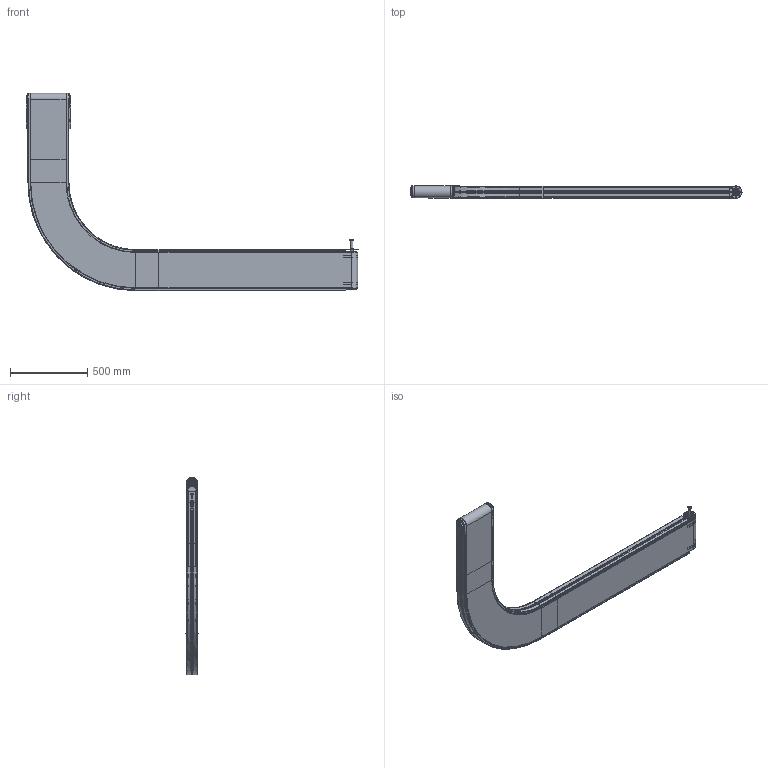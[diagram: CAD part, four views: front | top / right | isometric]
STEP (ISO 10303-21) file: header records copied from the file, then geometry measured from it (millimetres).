
FILE_DESCRIPTION (( 'STEP AP203' ), '1' );
FILE_NAME ('NASTRO_3020.step', '2026-04-27T08:38:50', ( 'Utente Windows' ), ( '' ), 'SwSTEP 2.0', 'SolidWorks 2024', '' );
FILE_SCHEMA (( 'CONFIG_CONTROL_DESIGN' ));
Length unit declared in the file: millimetre
Products named in the file (30): 084.802.076_chiuso; 3020.000.007; TELAIO_3020_9_1_Default<A macchina>; CHIAVETTE_A 5x5x50 UNI 6604-69; CURVA_3020_9_SX_Default<A macchina>; CHIAVETTE_A 5x5x30 UNI 6604-69; NASTRO_3020; 084.301.000 VITI ALUSIC_084.301.003; CATENA_3020_LDX; 3020.009.200; 084.807.014_084.807.002; 084.802.077_chiuso; VITI TE UNI 5739_M6x16 UNI 5739; 3020.009.002; 3020.006.130_DX; VITI TE UNI 5739_M8x16 UNI 5739; 084.802.017_084.802.017; TELAIO_3020_9_7_Default<A macchina>; 084.307.006; 084.302.000 DADI ALUSIC 13x13_084.302.004; 084.807.003_084.807.003<A macchina>; VITI TSEI UNI 5933 INOX_0410UNI5933A2; 084.808.012; 3020.000.005; RONDELLE UNI 6592_8.4x17 UNI 6592; 3020.006.003; 084.802.008; 084.802.062; RONDELLE FASCIA LARGA UNI 6593_6.4x24 UNI 6593; 084.802.078_chiuso con cono
Assembly tree (61 placements, depth 3):
  NASTRO_3020
    CATENA_3020_LDX
    3020.006.130_DX
      084.807.003_084.807.003<A macchina>  x2
      084.802.017_084.802.017  x2
      084.301.000 VITI ALUSIC_084.301.003  x4
      084.302.000 DADI ALUSIC 13x13_084.302.004  x4
      3020.006.003
      VITI TE UNI 5739_M8x16 UNI 5739
      084.802.062
      VITI TSEI UNI 5933 INOX_0410UNI5933A2  x4
      CHIAVETTE_A 5x5x50 UNI 6604-69
      CHIAVETTE_A 5x5x30 UNI 6604-69  x2
      3020.000.005  x2
      RONDELLE FASCIA LARGA UNI 6593_6.4x24 UNI 6593
      VITI TE UNI 5739_M6x16 UNI 5739
      084.802.077_chiuso
      084.802.078_chiuso con cono
      084.808.012
      RONDELLE UNI 6592_8.4x17 UNI 6592
    CURVA_3020_9_SX_Default<A macchina>
    3020.009.200
      084.802.008  x2
      084.301.000 VITI ALUSIC_084.301.003  x6
      084.302.000 DADI ALUSIC 13x13_084.302.004  x6
      3020.000.007
      3020.009.002
      084.807.014_084.807.002  x2
      084.802.076_chiuso  x2
      VITI TSEI UNI 5933 INOX_0410UNI5933A2  x4
    084.307.006
    TELAIO_3020_9_1_Default<A macchina>
    TELAIO_3020_9_7_Default<A macchina>
Bounding box: 2146.7 x 79.74 x 1276.2 mm (x, y, z)
Volume: 23369142.6 mm3; surface area: 6360660.6 mm2
Topology: 109 solids, 111 shells, 3941 faces, 10288 edges, 6633 vertices
Faces by surface type: plane 2127, cylinder 1223, cone 379, torus 134, bspline 70, sphere 8
Entity records: 100657 total; most frequent: CARTESIAN_POINT 22959, ORIENTED_EDGE 15650, DIRECTION 15221, EDGE_CURVE 7825, AXIS2_PLACEMENT_3D 5188, VERTEX_POINT 5044, VECTOR 4845, LINE 4845
